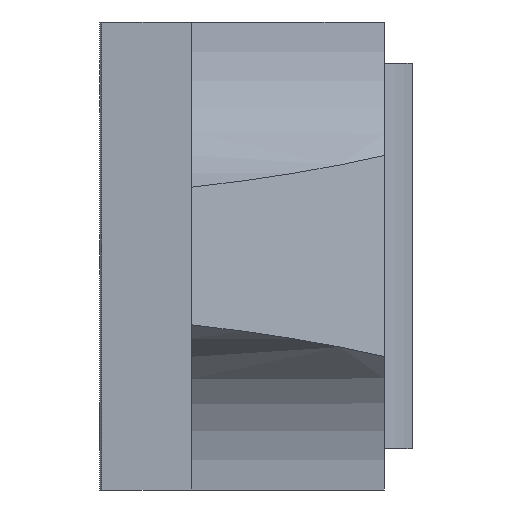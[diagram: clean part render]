
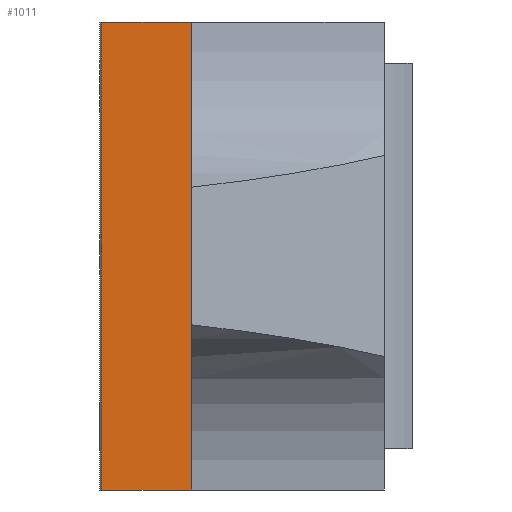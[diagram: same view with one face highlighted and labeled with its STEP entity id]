
A CAD part, left-side view. The second image highlights one B-rep face of the part: STEP entity #1011.
In plain terms, the highlighted planar face has unit normal (-1, 0, 0).
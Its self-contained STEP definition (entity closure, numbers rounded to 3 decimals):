
#42=PLANE('',#1106);
#79=FACE_OUTER_BOUND('',#139,.T.);
#139=EDGE_LOOP('',(#763,#764,#765,#766,#767,#768));
#192=LINE('',#1535,#288);
#194=LINE('',#1542,#290);
#206=LINE('',#1574,#302);
#220=LINE('',#1600,#316);
#226=LINE('',#1621,#322);
#229=LINE('',#1626,#325);
#288=VECTOR('',#1222,10.);
#290=VECTOR('',#1228,10.);
#302=VECTOR('',#1256,10.);
#316=VECTOR('',#1272,10.);
#322=VECTOR('',#1292,10.);
#325=VECTOR('',#1297,10.);
#443=VERTEX_POINT('',#1525);
#447=VERTEX_POINT('',#1534);
#449=VERTEX_POINT('',#1540);
#450=VERTEX_POINT('',#1541);
#462=VERTEX_POINT('',#1573);
#481=VERTEX_POINT('',#1620);
#549=EDGE_CURVE('',#443,#447,#192,.T.);
#552=EDGE_CURVE('',#449,#450,#194,.T.);
#569=EDGE_CURVE('',#447,#462,#206,.T.);
#583=EDGE_CURVE('',#450,#443,#220,.T.);
#593=EDGE_CURVE('',#462,#481,#226,.T.);
#596=EDGE_CURVE('',#481,#449,#229,.T.);
#763=ORIENTED_EDGE('',*,*,#593,.F.);
#764=ORIENTED_EDGE('',*,*,#569,.F.);
#765=ORIENTED_EDGE('',*,*,#549,.F.);
#766=ORIENTED_EDGE('',*,*,#583,.F.);
#767=ORIENTED_EDGE('',*,*,#552,.F.);
#768=ORIENTED_EDGE('',*,*,#596,.F.);
#1011=ADVANCED_FACE('',(#79),#42,.T.);
#1106=AXIS2_PLACEMENT_3D('',#1625,#1295,#1296);
#1222=DIRECTION('',(0.,0.,-1.));
#1228=DIRECTION('',(0.,0.,-1.));
#1256=DIRECTION('',(0.,1.,0.));
#1272=DIRECTION('',(0.,0.,-1.));
#1292=DIRECTION('',(0.,0.,1.));
#1295=DIRECTION('center_axis',(-1.,0.,0.));
#1296=DIRECTION('ref_axis',(0.,1.,0.));
#1297=DIRECTION('',(0.,-1.,0.));
#1525=CARTESIAN_POINT('',(-34.,11.,-7.5));
#1534=CARTESIAN_POINT('',(-34.,11.,-25.5));
#1535=CARTESIAN_POINT('',(-34.,11.,25.5));
#1540=CARTESIAN_POINT('',(-34.,11.,25.5));
#1541=CARTESIAN_POINT('',(-34.,11.,7.5));
#1542=CARTESIAN_POINT('',(-34.,11.,25.5));
#1573=CARTESIAN_POINT('',(-34.,20.8,-25.5));
#1574=CARTESIAN_POINT('',(-34.,21.,-25.5));
#1600=CARTESIAN_POINT('',(-34.,11.,25.5));
#1620=CARTESIAN_POINT('',(-34.,20.8,25.5));
#1621=CARTESIAN_POINT('',(-34.,20.8,25.5));
#1625=CARTESIAN_POINT('Origin',(-34.,11.,25.5));
#1626=CARTESIAN_POINT('',(-34.,21.,25.5));
